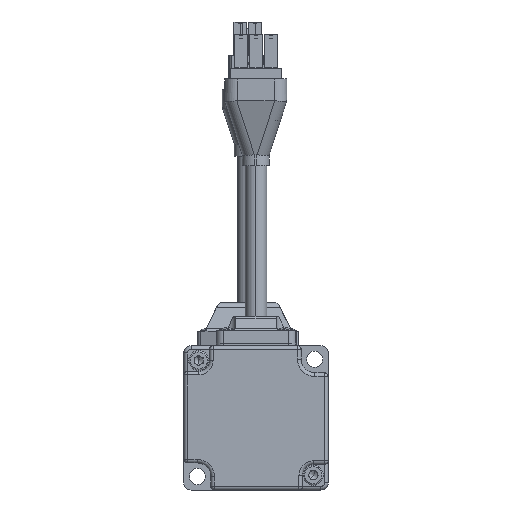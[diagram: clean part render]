
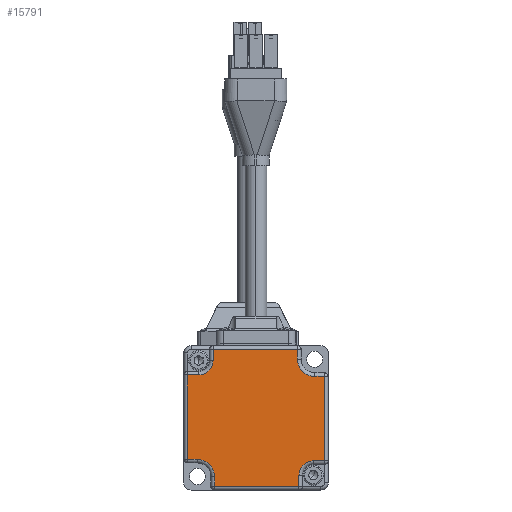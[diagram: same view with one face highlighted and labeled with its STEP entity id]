
A CAD part, front view. The second image highlights one B-rep face of the part: STEP entity #15791.
In plain terms, the highlighted planar face has unit normal (0, -1, 0).
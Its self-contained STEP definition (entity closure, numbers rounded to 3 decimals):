
#9175 = CIRCLE ( 'NONE', #19224, 4.8 ) ;
#9179 = LINE ( 'NONE', #9963, #9182 ) ;
#9182 = VECTOR ( 'NONE', #9965, 1000. ) ;
#9183 = LINE ( 'NONE', #9964, #9185 ) ;
#9184 = LINE ( 'NONE', #9971, #9187 ) ;
#9185 = VECTOR ( 'NONE', #9958, 1000. ) ;
#9186 = LINE ( 'NONE', #9973, #9189 ) ;
#9187 = VECTOR ( 'NONE', #9972, 1000. ) ;
#9188 = CIRCLE ( 'NONE', #19226, 4. ) ;
#9189 = VECTOR ( 'NONE', #9974, 1000. ) ;
#9190 = LINE ( 'NONE', #9966, #9192 ) ;
#9191 = LINE ( 'NONE', #9980, #9194 ) ;
#9192 = VECTOR ( 'NONE', #9967, 1000. ) ;
#9193 = LINE ( 'NONE', #9982, #9196 ) ;
#9194 = VECTOR ( 'NONE', #9981, 1000. ) ;
#9195 = CIRCLE ( 'NONE', #19228, 4.8 ) ;
#9196 = VECTOR ( 'NONE', #9983, 1000. ) ;
#9197 = LINE ( 'NONE', #9975, #9199 ) ;
#9198 = LINE ( 'NONE', #9989, #9201 ) ;
#9199 = VECTOR ( 'NONE', #9976, 1000. ) ;
#9200 = LINE ( 'NONE', #9991, #9203 ) ;
#9201 = VECTOR ( 'NONE', #9990, 1000. ) ;
#9202 = CIRCLE ( 'NONE', #19231, 4. ) ;
#9203 = VECTOR ( 'NONE', #9992, 1000. ) ;
#9204 = LINE ( 'NONE', #9984, #9206 ) ;
#9205 = LINE ( 'NONE', #9997, #9208 ) ;
#9206 = VECTOR ( 'NONE', #9985, 1000. ) ;
#9208 = VECTOR ( 'NONE', #9998, 1000. ) ;
#9958 = DIRECTION ( 'NONE',  ( 1., 0., 0. ) ) ;
#9963 = CARTESIAN_POINT ( 'NONE',  ( -11.5, 0., 20. ) ) ;
#9964 = CARTESIAN_POINT ( 'NONE',  ( -20., 0., -11.5 ) ) ;
#9965 = DIRECTION ( 'NONE',  ( 0., 0., -1. ) ) ;
#9966 = CARTESIAN_POINT ( 'NONE',  ( -11.91, 0., 20. ) ) ;
#9967 = DIRECTION ( 'NONE',  ( 0., 0., -1. ) ) ;
#9968 = CARTESIAN_POINT ( 'NONE',  ( -16.3, 0., -16.3 ) ) ;
#9969 = DIRECTION ( 'NONE',  ( 0., 1., 0. ) ) ;
#9970 = DIRECTION ( 'NONE',  ( 0., 0., 1. ) ) ;
#9971 = CARTESIAN_POINT ( 'NONE',  ( -19., 0., 20. ) ) ;
#9972 = DIRECTION ( 'NONE',  ( 0., 0., -1. ) ) ;
#9973 = CARTESIAN_POINT ( 'NONE',  ( -20., 0., 11.91 ) ) ;
#9974 = DIRECTION ( 'NONE',  ( -1., 0., 0. ) ) ;
#9975 = CARTESIAN_POINT ( 'NONE',  ( -20., 0., 11.5 ) ) ;
#9976 = DIRECTION ( 'NONE',  ( -1., 0., 0. ) ) ;
#9977 = CARTESIAN_POINT ( 'NONE',  ( -15.91, 0., 15.91 ) ) ;
#9978 = DIRECTION ( 'NONE',  ( 0., 1., 0. ) ) ;
#9979 = DIRECTION ( 'NONE',  ( 0., 0., 1. ) ) ;
#9980 = CARTESIAN_POINT ( 'NONE',  ( -20., 0., 19. ) ) ;
#9981 = DIRECTION ( 'NONE',  ( -1., 0., 0. ) ) ;
#9982 = CARTESIAN_POINT ( 'NONE',  ( 11.5, 0., 20. ) ) ;
#9983 = DIRECTION ( 'NONE',  ( 0., 0., 1. ) ) ;
#9984 = CARTESIAN_POINT ( 'NONE',  ( 11.91, 0., 20. ) ) ;
#9985 = DIRECTION ( 'NONE',  ( 0., 0., 1. ) ) ;
#9986 = CARTESIAN_POINT ( 'NONE',  ( 16.3, 0., 16.3 ) ) ;
#9987 = DIRECTION ( 'NONE',  ( 0., 1., 0. ) ) ;
#9988 = DIRECTION ( 'NONE',  ( 0., 0., 1. ) ) ;
#9989 = CARTESIAN_POINT ( 'NONE',  ( 19., 0., 20. ) ) ;
#9990 = DIRECTION ( 'NONE',  ( 0., 0., 1. ) ) ;
#9991 = CARTESIAN_POINT ( 'NONE',  ( -20., 0., -11.91 ) ) ;
#9992 = DIRECTION ( 'NONE',  ( 1., 0., 0. ) ) ;
#9994 = CARTESIAN_POINT ( 'NONE',  ( 15.91, 0., -15.91 ) ) ;
#9995 = DIRECTION ( 'NONE',  ( 0., 1., 0. ) ) ;
#9996 = DIRECTION ( 'NONE',  ( 0., 0., 1. ) ) ;
#9997 = CARTESIAN_POINT ( 'NONE',  ( -20., 0., -19. ) ) ;
#9998 = DIRECTION ( 'NONE',  ( 1., 0., 0. ) ) ;
#15791 = ADVANCED_FACE ( 'NONE', ( #45208 ), #25817, .F. ) ;
#19224 = AXIS2_PLACEMENT_3D ( 'NONE', #9968, #9969, #9970 ) ;
#19226 = AXIS2_PLACEMENT_3D ( 'NONE', #9977, #9978, #9979 ) ;
#19228 = AXIS2_PLACEMENT_3D ( 'NONE', #9986, #9987, #9988 ) ;
#19231 = AXIS2_PLACEMENT_3D ( 'NONE', #9994, #9995, #9996 ) ;
#25807 = CARTESIAN_POINT ( 'NONE',  ( -20., 0., 20. ) ) ;
#25817 = PLANE ( 'NONE',  #35072 ) ;
#25821 = DIRECTION ( 'NONE',  ( 0., 1., 0. ) ) ;
#25823 = DIRECTION ( 'NONE',  ( 0., 0., 1. ) ) ;
#26035 = CARTESIAN_POINT ( 'NONE',  ( -11.5, 0., -19. ) ) ;
#26046 = CARTESIAN_POINT ( 'NONE',  ( 11.91, 0., -19. ) ) ;
#26048 = CARTESIAN_POINT ( 'NONE',  ( 11.5, 0., 19. ) ) ;
#26050 = CARTESIAN_POINT ( 'NONE',  ( -19., 0., 11.91 ) ) ;
#26051 = CARTESIAN_POINT ( 'NONE',  ( -15.91, 0., 11.91 ) ) ;
#26053 = CARTESIAN_POINT ( 'NONE',  ( -11.91, 0., 15.91 ) ) ;
#26055 = CARTESIAN_POINT ( 'NONE',  ( -11.91, 0., 19. ) ) ;
#26056 = CARTESIAN_POINT ( 'NONE',  ( -19., 0., -11.5 ) ) ;
#26058 = CARTESIAN_POINT ( 'NONE',  ( -16.3, 0., -11.5 ) ) ;
#26060 = CARTESIAN_POINT ( 'NONE',  ( -11.5, 0., -16.3 ) ) ;
#27806 = CARTESIAN_POINT ( 'NONE',  ( 19., 0., 11.5 ) ) ;
#27809 = CARTESIAN_POINT ( 'NONE',  ( 19., 0., -11.91 ) ) ;
#27813 = CARTESIAN_POINT ( 'NONE',  ( 11.5, 0., 16.3 ) ) ;
#27936 = CARTESIAN_POINT ( 'NONE',  ( 15.91, 0., -11.91 ) ) ;
#27938 = CARTESIAN_POINT ( 'NONE',  ( 11.91, 0., -15.91 ) ) ;
#27986 = CARTESIAN_POINT ( 'NONE',  ( 16.3, 0., 11.5 ) ) ;
#33752 = ORIENTED_EDGE ( 'NONE', *, *, #38421, .T. ) ;
#33753 = ORIENTED_EDGE ( 'NONE', *, *, #38422, .T. ) ;
#33754 = ORIENTED_EDGE ( 'NONE', *, *, #38423, .T. ) ;
#33755 = ORIENTED_EDGE ( 'NONE', *, *, #38424, .T. ) ;
#33756 = ORIENTED_EDGE ( 'NONE', *, *, #38425, .T. ) ;
#33757 = ORIENTED_EDGE ( 'NONE', *, *, #38426, .T. ) ;
#33758 = ORIENTED_EDGE ( 'NONE', *, *, #38427, .T. ) ;
#33759 = ORIENTED_EDGE ( 'NONE', *, *, #38428, .T. ) ;
#33760 = ORIENTED_EDGE ( 'NONE', *, *, #38429, .T. ) ;
#33761 = ORIENTED_EDGE ( 'NONE', *, *, #38430, .T. ) ;
#33762 = ORIENTED_EDGE ( 'NONE', *, *, #38431, .T. ) ;
#33763 = ORIENTED_EDGE ( 'NONE', *, *, #38432, .T. ) ;
#33764 = ORIENTED_EDGE ( 'NONE', *, *, #38433, .T. ) ;
#33765 = ORIENTED_EDGE ( 'NONE', *, *, #38434, .T. ) ;
#33766 = ORIENTED_EDGE ( 'NONE', *, *, #38435, .T. ) ;
#33767 = ORIENTED_EDGE ( 'NONE', *, *, #38436, .T. ) ;
#35072 = AXIS2_PLACEMENT_3D ( 'NONE', #25807, #25821, #25823 ) ;
#38421 = EDGE_CURVE ( 'NONE', #47377, #47363, #9179, .T. ) ;
#38422 = EDGE_CURVE ( 'NONE', #47376, #47377, #9175, .T. ) ;
#38423 = EDGE_CURVE ( 'NONE', #47375, #47376, #9183, .T. ) ;
#38424 = EDGE_CURVE ( 'NONE', #47371, #47375, #9184, .T. ) ;
#38425 = EDGE_CURVE ( 'NONE', #47372, #47371, #9186, .T. ) ;
#38426 = EDGE_CURVE ( 'NONE', #47373, #47372, #9188, .T. ) ;
#38427 = EDGE_CURVE ( 'NONE', #47374, #47373, #9190, .T. ) ;
#38428 = EDGE_CURVE ( 'NONE', #47370, #47374, #9191, .T. ) ;
#38429 = EDGE_CURVE ( 'NONE', #47398, #47370, #9193, .T. ) ;
#38430 = EDGE_CURVE ( 'NONE', #47572, #47398, #9195, .T. ) ;
#38431 = EDGE_CURVE ( 'NONE', #47391, #47572, #9197, .T. ) ;
#38432 = EDGE_CURVE ( 'NONE', #47394, #47391, #9198, .T. ) ;
#38433 = EDGE_CURVE ( 'NONE', #47522, #47394, #9200, .T. ) ;
#38434 = EDGE_CURVE ( 'NONE', #47524, #47522, #9202, .T. ) ;
#38435 = EDGE_CURVE ( 'NONE', #47369, #47524, #9204, .T. ) ;
#38436 = EDGE_CURVE ( 'NONE', #47363, #47369, #9205, .T. ) ;
#40574 = EDGE_LOOP ( 'NONE', ( #33767, #33766, #33765, #33764, #33763, #33762, #33761, #33760, #33759, #33758, #33757, #33756, #33755, #33754, #33753, #33752 ) ) ;
#45208 = FACE_OUTER_BOUND ( 'NONE', #40574, .T. ) ;
#47363 = VERTEX_POINT ( 'NONE', #26035 ) ;
#47369 = VERTEX_POINT ( 'NONE', #26046 ) ;
#47370 = VERTEX_POINT ( 'NONE', #26048 ) ;
#47371 = VERTEX_POINT ( 'NONE', #26050 ) ;
#47372 = VERTEX_POINT ( 'NONE', #26051 ) ;
#47373 = VERTEX_POINT ( 'NONE', #26053 ) ;
#47374 = VERTEX_POINT ( 'NONE', #26055 ) ;
#47375 = VERTEX_POINT ( 'NONE', #26056 ) ;
#47376 = VERTEX_POINT ( 'NONE', #26058 ) ;
#47377 = VERTEX_POINT ( 'NONE', #26060 ) ;
#47391 = VERTEX_POINT ( 'NONE', #27806 ) ;
#47394 = VERTEX_POINT ( 'NONE', #27809 ) ;
#47398 = VERTEX_POINT ( 'NONE', #27813 ) ;
#47522 = VERTEX_POINT ( 'NONE', #27936 ) ;
#47524 = VERTEX_POINT ( 'NONE', #27938 ) ;
#47572 = VERTEX_POINT ( 'NONE', #27986 ) ;
